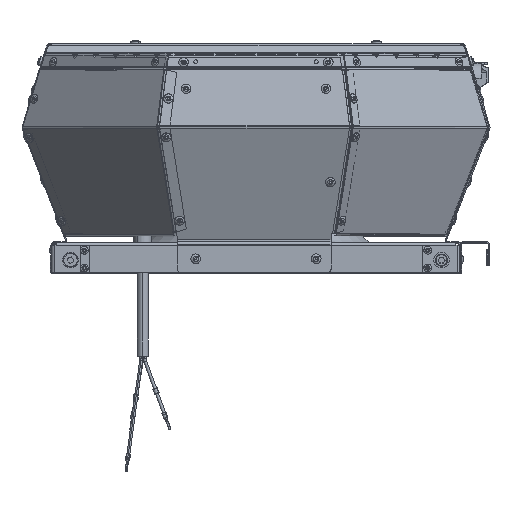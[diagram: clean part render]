
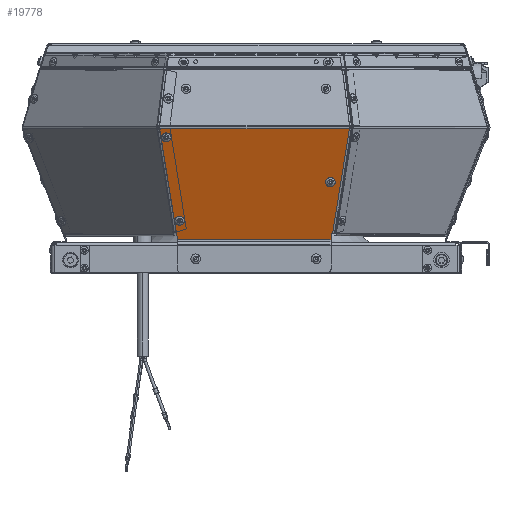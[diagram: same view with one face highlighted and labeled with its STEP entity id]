
A CAD part, top view. The second image highlights one B-rep face of the part: STEP entity #19778.
In plain terms, the highlighted planar face has unit normal (0, -0.362, 0.932).
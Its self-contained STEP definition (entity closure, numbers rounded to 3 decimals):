
#1329 = CARTESIAN_POINT ( 'NONE',  ( -63.383, 20.276, 164.301 ) ) ;
#1330 = DIRECTION ( 'NONE',  ( 0., 0.362, -0.932 ) ) ;
#1331 = DIRECTION ( 'NONE',  ( 0., 0.932, 0.362 ) ) ;
#13183 = EDGE_CURVE ( 'NONE', #61893, #61599, #96296, .T. ) ;
#13231 = EDGE_CURVE ( 'NONE', #46008, #61925, #96420, .T. ) ;
#13269 = EDGE_CURVE ( 'NONE', #61962, #95171, #96500, .T. ) ;
#13686 = EDGE_CURVE ( 'NONE', #61879, #61859, #97603, .T. ) ;
#13693 = EDGE_CURVE ( 'NONE', #61901, #61685, #97619, .T. ) ;
#13697 = EDGE_CURVE ( 'NONE', #95085, #46094, #97629, .T. ) ;
#13701 = EDGE_CURVE ( 'NONE', #61685, #61923, #97639, .T. ) ;
#13702 = EDGE_CURVE ( 'NONE', #46094, #95085, #97644, .T. ) ;
#13703 = EDGE_CURVE ( 'NONE', #61599, #61893, #97646, .T. ) ;
#13705 = EDGE_CURVE ( 'NONE', #61962, #61901, #97650, .T. ) ;
#13706 = EDGE_CURVE ( 'NONE', #61925, #46008, #97653, .T. ) ;
#13707 = EDGE_CURVE ( 'NONE', #61879, #61897, #97657, .T. ) ;
#13708 = EDGE_CURVE ( 'NONE', #61897, #95171, #97659, .T. ) ;
#13711 = EDGE_CURVE ( 'NONE', #61923, #61859, #97667, .T. ) ;
#19778 = ADVANCED_FACE ( 'NONE', ( #29486, #29490, #29489, #29478 ), #67924, .F. ) ;
#23114 = CARTESIAN_POINT ( 'NONE',  ( 61.664, 50.251, 175.957 ) ) ;
#23257 = CARTESIAN_POINT ( 'NONE',  ( 77.589, 96.529, 193.954 ) ) ;
#29478 = FACE_OUTER_BOUND ( 'NONE', #45013, .T. ) ;
#29486 = FACE_BOUND ( 'NONE', #44962, .T. ) ;
#29489 = FACE_BOUND ( 'NONE', #44993, .T. ) ;
#29490 = FACE_BOUND ( 'NONE', #44946, .T. ) ;
#31720 = CARTESIAN_POINT ( 'NONE',  ( -74.512, 91.359, 191.943 ) ) ;
#31793 = CARTESIAN_POINT ( 'NONE',  ( 61.664, 54.166, 177.48 ) ) ;
#42157 = AXIS2_PLACEMENT_3D ( 'NONE', #1329, #1330, #1331 ) ;
#42221 = AXIS2_PLACEMENT_3D ( 'NONE', #72431, #72433, #72435 ) ;
#42843 = AXIS2_PLACEMENT_3D ( 'NONE', #53534, #53537, #53540 ) ;
#42846 = AXIS2_PLACEMENT_3D ( 'NONE', #53574, #53576, #53579 ) ;
#42849 = AXIS2_PLACEMENT_3D ( 'NONE', #53588, #53591, #53593 ) ;
#42853 = AXIS2_PLACEMENT_3D ( 'NONE', #53613, #53616, #53619 ) ;
#44199 = AXIS2_PLACEMENT_3D ( 'NONE', #67921, #67912, #67926 ) ;
#44946 = EDGE_LOOP ( 'NONE', ( #52614, #53176 ) ) ;
#44962 = EDGE_LOOP ( 'NONE', ( #53031, #53037 ) ) ;
#44993 = EDGE_LOOP ( 'NONE', ( #74563, #51769 ) ) ;
#45013 = EDGE_LOOP ( 'NONE', ( #52059, #52520, #52836, #51861, #52052, #51891, #51904, #51880 ) ) ;
#46008 = VERTEX_POINT ( 'NONE', #31720 ) ;
#46094 = VERTEX_POINT ( 'NONE', #31793 ) ;
#51769 = ORIENTED_EDGE ( 'NONE', *, *, #13703, .T. ) ;
#51861 = ORIENTED_EDGE ( 'NONE', *, *, #13269, .T. ) ;
#51880 = ORIENTED_EDGE ( 'NONE', *, *, #13711, .F. ) ;
#51891 = ORIENTED_EDGE ( 'NONE', *, *, #13707, .F. ) ;
#51904 = ORIENTED_EDGE ( 'NONE', *, *, #13686, .T. ) ;
#52052 = ORIENTED_EDGE ( 'NONE', *, *, #13708, .F. ) ;
#52059 = ORIENTED_EDGE ( 'NONE', *, *, #13701, .F. ) ;
#52520 = ORIENTED_EDGE ( 'NONE', *, *, #13693, .F. ) ;
#52614 = ORIENTED_EDGE ( 'NONE', *, *, #13231, .T. ) ;
#52836 = ORIENTED_EDGE ( 'NONE', *, *, #13705, .F. ) ;
#53031 = ORIENTED_EDGE ( 'NONE', *, *, #13697, .F. ) ;
#53037 = ORIENTED_EDGE ( 'NONE', *, *, #13702, .F. ) ;
#53176 = ORIENTED_EDGE ( 'NONE', *, *, #13706, .T. ) ;
#53410 = CARTESIAN_POINT ( 'NONE',  ( 80., 96.601, 193.982 ) ) ;
#53428 = DIRECTION ( 'NONE',  ( -1., 0., 0. ) ) ;
#53453 = CARTESIAN_POINT ( 'NONE',  ( 62.259, -7.491, 153.503 ) ) ;
#53474 = DIRECTION ( 'NONE',  ( 0., -0.932, -0.362 ) ) ;
#53534 = CARTESIAN_POINT ( 'NONE',  ( 61.664, 52.209, 176.718 ) ) ;
#53537 = DIRECTION ( 'NONE',  ( 0., -0.362, 0.932 ) ) ;
#53540 = DIRECTION ( 'NONE',  ( 0., -0.932, -0.362 ) ) ;
#53558 = CARTESIAN_POINT ( 'NONE',  ( 80., 4.499, 158.165 ) ) ;
#53562 = DIRECTION ( 'NONE',  ( -1., 0., 0. ) ) ;
#53574 = CARTESIAN_POINT ( 'NONE',  ( 61.664, 52.209, 176.718 ) ) ;
#53576 = DIRECTION ( 'NONE',  ( 0., -0.362, 0.932 ) ) ;
#53579 = DIRECTION ( 'NONE',  ( 0., -0.932, -0.362 ) ) ;
#53582 = CARTESIAN_POINT ( 'NONE',  ( 77.58, 96.532, 193.955 ) ) ;
#53585 = DIRECTION ( 'NONE',  ( 0., -0.932, -0.362 ) ) ;
#53588 = CARTESIAN_POINT ( 'NONE',  ( -63.383, 20.276, 164.301 ) ) ;
#53591 = DIRECTION ( 'NONE',  ( 0., 0.362, -0.932 ) ) ;
#53593 = DIRECTION ( 'NONE',  ( 0., 0.932, 0.362 ) ) ;
#53597 = CARTESIAN_POINT ( 'NONE',  ( 62.259, 9.286, 160.026 ) ) ;
#53602 = DIRECTION ( 'NONE',  ( -1., 0., 0. ) ) ;
#53613 = CARTESIAN_POINT ( 'NONE',  ( -74.512, 89.402, 191.182 ) ) ;
#53616 = DIRECTION ( 'NONE',  ( 0., 0.362, -0.932 ) ) ;
#53619 = DIRECTION ( 'NONE',  ( 0., 0.932, 0.362 ) ) ;
#53624 = CARTESIAN_POINT ( 'NONE',  ( 77.58, 96.532, 193.955 ) ) ;
#53627 = DIRECTION ( 'NONE',  ( 0.965, -0.245, -0.095 ) ) ;
#53630 = DIRECTION ( 'NONE',  ( -0.148, 0.922, 0.358 ) ) ;
#53654 = CARTESIAN_POINT ( 'NONE',  ( -65.164, 4.499, 158.165 ) ) ;
#61599 = VERTEX_POINT ( 'NONE', #70237 ) ;
#61685 = VERTEX_POINT ( 'NONE', #70324 ) ;
#61859 = VERTEX_POINT ( 'NONE', #70501 ) ;
#61879 = VERTEX_POINT ( 'NONE', #70521 ) ;
#61893 = VERTEX_POINT ( 'NONE', #70536 ) ;
#61897 = VERTEX_POINT ( 'NONE', #70540 ) ;
#61901 = VERTEX_POINT ( 'NONE', #70544 ) ;
#61923 = VERTEX_POINT ( 'NONE', #70566 ) ;
#61925 = VERTEX_POINT ( 'NONE', #70568 ) ;
#61962 = VERTEX_POINT ( 'NONE', #70605 ) ;
#67912 = DIRECTION ( 'NONE',  ( 0., 0.362, -0.932 ) ) ;
#67921 = CARTESIAN_POINT ( 'NONE',  ( 80., 97.367, 194.279 ) ) ;
#67924 = PLANE ( 'NONE',  #44199 ) ;
#67926 = DIRECTION ( 'NONE',  ( 0., 0.932, 0.362 ) ) ;
#70237 = CARTESIAN_POINT ( 'NONE',  ( -63.383, 18.319, 163.539 ) ) ;
#70324 = CARTESIAN_POINT ( 'NONE',  ( 62.259, 4.499, 158.165 ) ) ;
#70501 = CARTESIAN_POINT ( 'NONE',  ( -80., 96.601, 193.982 ) ) ;
#70521 = CARTESIAN_POINT ( 'NONE',  ( 77.58, 96.601, 193.982 ) ) ;
#70536 = CARTESIAN_POINT ( 'NONE',  ( -63.383, 22.233, 165.062 ) ) ;
#70540 = CARTESIAN_POINT ( 'NONE',  ( 77.58, 96.532, 193.955 ) ) ;
#70544 = CARTESIAN_POINT ( 'NONE',  ( 62.259, 9.286, 160.026 ) ) ;
#70566 = CARTESIAN_POINT ( 'NONE',  ( -65.164, 4.499, 158.165 ) ) ;
#70568 = CARTESIAN_POINT ( 'NONE',  ( -74.512, 87.445, 190.421 ) ) ;
#70605 = CARTESIAN_POINT ( 'NONE',  ( 63.536, 9.286, 160.026 ) ) ;
#72431 = CARTESIAN_POINT ( 'NONE',  ( -74.512, 89.402, 191.182 ) ) ;
#72433 = DIRECTION ( 'NONE',  ( 0., 0.362, -0.932 ) ) ;
#72435 = DIRECTION ( 'NONE',  ( 0., 0.932, 0.362 ) ) ;
#72651 = DIRECTION ( 'NONE',  ( 0.148, 0.922, 0.358 ) ) ;
#72680 = CARTESIAN_POINT ( 'NONE',  ( 62.817, 4.827, 158.293 ) ) ;
#74563 = ORIENTED_EDGE ( 'NONE', *, *, #13183, .T. ) ;
#95085 = VERTEX_POINT ( 'NONE', #23114 ) ;
#95171 = VERTEX_POINT ( 'NONE', #23257 ) ;
#96296 = CIRCLE ( 'NONE', #42157, 2.1 ) ;
#96420 = CIRCLE ( 'NONE', #42221, 2.1 ) ;
#96500 = LINE ( 'NONE', #72680, #96509 ) ;
#96509 = VECTOR ( 'NONE', #72651, 1000. ) ;
#97603 = LINE ( 'NONE', #53410, #97607 ) ;
#97607 = VECTOR ( 'NONE', #53428, 1000. ) ;
#97619 = LINE ( 'NONE', #53453, #97622 ) ;
#97622 = VECTOR ( 'NONE', #53474, 1000. ) ;
#97629 = CIRCLE ( 'NONE', #42843, 2.1 ) ;
#97639 = LINE ( 'NONE', #53558, #97645 ) ;
#97644 = CIRCLE ( 'NONE', #42846, 2.1 ) ;
#97645 = VECTOR ( 'NONE', #53562, 1000. ) ;
#97646 = CIRCLE ( 'NONE', #42849, 2.1 ) ;
#97650 = LINE ( 'NONE', #53597, #97655 ) ;
#97653 = CIRCLE ( 'NONE', #42853, 2.1 ) ;
#97655 = VECTOR ( 'NONE', #53602, 1000. ) ;
#97657 = LINE ( 'NONE', #53582, #97660 ) ;
#97659 = LINE ( 'NONE', #53624, #97665 ) ;
#97660 = VECTOR ( 'NONE', #53585, 1000. ) ;
#97665 = VECTOR ( 'NONE', #53627, 1000. ) ;
#97667 = LINE ( 'NONE', #53654, #97670 ) ;
#97670 = VECTOR ( 'NONE', #53630, 1000. ) ;
